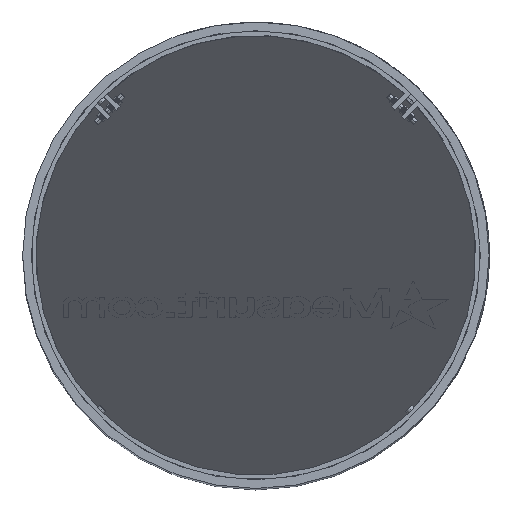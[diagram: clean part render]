
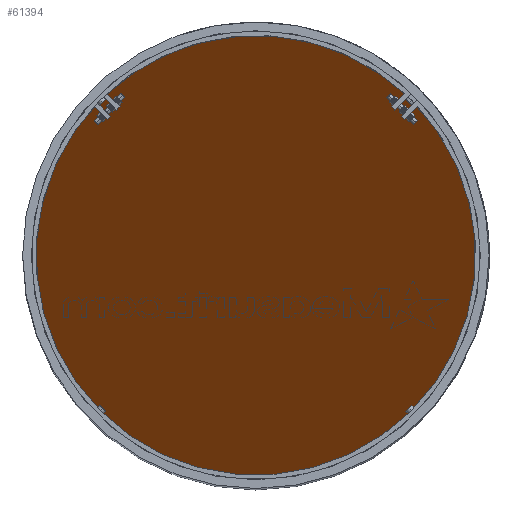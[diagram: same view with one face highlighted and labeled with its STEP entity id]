
A CAD part, top view. The second image highlights one B-rep face of the part: STEP entity #61394.
In plain terms, the highlighted planar face has unit normal (0, -0.707, 0.707).
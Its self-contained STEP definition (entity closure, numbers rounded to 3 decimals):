
#8 = CARTESIAN_POINT ( 'NONE',  ( -382., 0., 747.828 ) ) ;
#6544 = CARTESIAN_POINT ( 'NONE',  ( -382., 0., 747.828 ) ) ;
#16593 = EDGE_CURVE ( 'NONE', #35088, #35629, #69325, .T. ) ;
#20266 = EDGE_CURVE ( 'NONE', #35629, #35088, #45843, .T. ) ;
#29931 = AXIS2_PLACEMENT_3D ( 'NONE', #31696, #57286, #82845 ) ;
#31696 = CARTESIAN_POINT ( 'NONE',  ( 1216.462, -373.914, 373.914 ) ) ;
#31947 = CARTESIAN_POINT ( 'NONE',  ( 382., 764., 1511.828 ) ) ;
#33269 = CARTESIAN_POINT ( 'NONE',  ( 382., -764., -16.172 ) ) ;
#35088 = VERTEX_POINT ( 'NONE', #6544 ) ;
#35629 = VERTEX_POINT ( 'NONE', #63758 ) ;
#38570 = ORIENTED_EDGE ( 'NONE', *, *, #16593, .T. ) ;
#45843 =( BOUNDED_CURVE ( )  B_SPLINE_CURVE ( 3, ( #51649, #31947, #58377, #8 ),
 .UNSPECIFIED., .F., .T. ) 
 B_SPLINE_CURVE_WITH_KNOTS ( ( 4, 4 ),
 ( 1.571, 4.712 ),
 .UNSPECIFIED. ) 
 CURVE ( )  GEOMETRIC_REPRESENTATION_ITEM ( )  RATIONAL_B_SPLINE_CURVE ( ( 1., 0.333, 0.333, 1. ) ) 
 REPRESENTATION_ITEM ( '' )  );
#50918 = CARTESIAN_POINT ( 'NONE',  ( -382., -764., -16.172 ) ) ;
#51649 = CARTESIAN_POINT ( 'NONE',  ( 382., 0., 747.828 ) ) ;
#57286 = DIRECTION ( 'NONE',  ( 0., 0.707, -0.707 ) ) ;
#58377 = CARTESIAN_POINT ( 'NONE',  ( -382., 764., 1511.828 ) ) ;
#61394 = ADVANCED_FACE ( 'NONE', ( #81972 ), #70268, .F. ) ;
#63483 = CARTESIAN_POINT ( 'NONE',  ( -382., 0., 747.828 ) ) ;
#63758 = CARTESIAN_POINT ( 'NONE',  ( 382., 0., 747.828 ) ) ;
#63901 = CARTESIAN_POINT ( 'NONE',  ( 382., 0., 747.828 ) ) ;
#69325 =( BOUNDED_CURVE ( )  B_SPLINE_CURVE ( 3, ( #63483, #50918, #33269, #63901 ),
 .UNSPECIFIED., .F., .F. ) 
 B_SPLINE_CURVE_WITH_KNOTS ( ( 4, 4 ),
 ( 4.712, 7.854 ),
 .UNSPECIFIED. ) 
 CURVE ( )  GEOMETRIC_REPRESENTATION_ITEM ( )  RATIONAL_B_SPLINE_CURVE ( ( 1., 0.333, 0.333, 1. ) ) 
 REPRESENTATION_ITEM ( '' )  );
#70268 = PLANE ( 'NONE',  #29931 ) ;
#78393 = ORIENTED_EDGE ( 'NONE', *, *, #20266, .T. ) ;
#81460 = EDGE_LOOP ( 'NONE', ( #38570, #78393 ) ) ;
#81972 = FACE_OUTER_BOUND ( 'NONE', #81460, .T. ) ;
#82845 = DIRECTION ( 'NONE',  ( 0., 0.707, 0.707 ) ) ;
